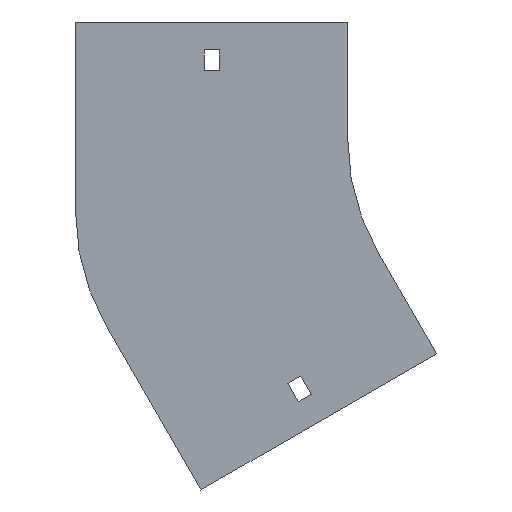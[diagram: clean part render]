
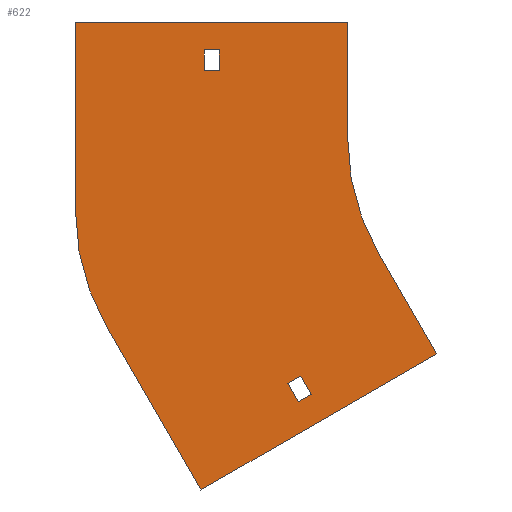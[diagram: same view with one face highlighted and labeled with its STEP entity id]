
A CAD part, front view. The second image highlights one B-rep face of the part: STEP entity #622.
In plain terms, the highlighted planar face has unit normal (0, -1, 0).
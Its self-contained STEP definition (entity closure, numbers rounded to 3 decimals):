
#4 = LINE ( 'NONE', #1665, #673 ) ;
#48 = LINE ( 'NONE', #1111, #1924 ) ;
#92 = EDGE_CURVE ( 'NONE', #1277, #472, #923, .T. ) ;
#137 = VERTEX_POINT ( 'NONE', #1543 ) ;
#138 = DIRECTION ( 'NONE',  ( 0.5, 0., -0.866 ) ) ;
#148 = AXIS2_PLACEMENT_3D ( 'NONE', #501, #1611, #667 ) ;
#152 = DIRECTION ( 'NONE',  ( -0.866, 0., -0.5 ) ) ;
#167 = VECTOR ( 'NONE', #583, 1000. ) ;
#175 = DIRECTION ( 'NONE',  ( 0., 0., -1. ) ) ;
#185 = DIRECTION ( 'NONE',  ( 0., 0., -1. ) ) ;
#216 = VERTEX_POINT ( 'NONE', #966 ) ;
#230 = DIRECTION ( 'NONE',  ( -0.5, 0., 0.866 ) ) ;
#261 = LINE ( 'NONE', #538, #721 ) ;
#273 = EDGE_LOOP ( 'NONE', ( #1896, #766, #865, #1287 ) ) ;
#297 = PLANE ( 'NONE',  #148 ) ;
#305 = DIRECTION ( 'NONE',  ( 0.5, 0., -0.866 ) ) ;
#316 = CARTESIAN_POINT ( 'NONE',  ( -121.296, 0., -113.909 ) ) ;
#321 = VECTOR ( 'NONE', #387, 1000. ) ;
#329 = LINE ( 'NONE', #316, #1769 ) ;
#343 = ORIENTED_EDGE ( 'NONE', *, *, #92, .F. ) ;
#387 = DIRECTION ( 'NONE',  ( 0., 0., 1. ) ) ;
#420 = EDGE_CURVE ( 'NONE', #1357, #1584, #627, .T. ) ;
#452 = EDGE_CURVE ( 'NONE', #705, #578, #4, .T. ) ;
#453 = CARTESIAN_POINT ( 'NONE',  ( -125.796, 0., -106.115 ) ) ;
#467 = VERTEX_POINT ( 'NONE', #642 ) ;
#472 = VERTEX_POINT ( 'NONE', #1893 ) ;
#486 = CARTESIAN_POINT ( 'NONE',  ( -162., 0., 38. ) ) ;
#501 = CARTESIAN_POINT ( 'NONE',  ( 0., 0., 0. ) ) ;
#533 = VECTOR ( 'NONE', #1155, 1000. ) ;
#538 = CARTESIAN_POINT ( 'NONE',  ( -125.796, 0., -106.115 ) ) ;
#542 = EDGE_CURVE ( 'NONE', #216, #1260, #558, .T. ) ;
#547 = ORIENTED_EDGE ( 'NONE', *, *, #828, .F. ) ;
#558 = CIRCLE ( 'NONE', #867, 100. ) ;
#560 = ORIENTED_EDGE ( 'NONE', *, *, #1863, .F. ) ;
#562 = VERTEX_POINT ( 'NONE', #1248 ) ;
#578 = VERTEX_POINT ( 'NONE', #941 ) ;
#583 = DIRECTION ( 'NONE',  ( 1., 0., 0. ) ) ;
#584 = DIRECTION ( 'NONE',  ( 0., 1., 0. ) ) ;
#600 = ORIENTED_EDGE ( 'NONE', *, *, #452, .T. ) ;
#610 = DIRECTION ( 'NONE',  ( 0., -1., 0. ) ) ;
#622 = ADVANCED_FACE ( 'NONE', ( #1401, #648, #1258 ), #297, .T. ) ;
#627 = LINE ( 'NONE', #486, #167 ) ;
#642 = CARTESIAN_POINT ( 'NONE',  ( -217.5, 0., 50. ) ) ;
#648 = FACE_OUTER_BOUND ( 'NONE', #1465, .T. ) ;
#656 = EDGE_CURVE ( 'NONE', #1584, #705, #48, .T. ) ;
#660 = VECTOR ( 'NONE', #138, 1000. ) ;
#667 = DIRECTION ( 'NONE',  ( 0., 0., -1. ) ) ;
#673 = VECTOR ( 'NONE', #1522, 1000. ) ;
#681 = LINE ( 'NONE', #1765, #1078 ) ;
#705 = VERTEX_POINT ( 'NONE', #1571 ) ;
#712 = CARTESIAN_POINT ( 'NONE',  ( -155.5, 0., 38. ) ) ;
#721 = VECTOR ( 'NONE', #1621, 1000. ) ;
#726 = EDGE_CURVE ( 'NONE', #1105, #1277, #1718, .T. ) ;
#745 = CARTESIAN_POINT ( 'NONE',  ( 0., 0., 0. ) ) ;
#766 = ORIENTED_EDGE ( 'NONE', *, *, #901, .F. ) ;
#783 = CARTESIAN_POINT ( 'NONE',  ( -100., 0., 50. ) ) ;
#803 = CARTESIAN_POINT ( 'NONE',  ( -162., 0., 38. ) ) ;
#814 = ORIENTED_EDGE ( 'NONE', *, *, #1942, .F. ) ;
#817 = CARTESIAN_POINT ( 'NONE',  ( -120.167, 0., -102.865 ) ) ;
#819 = CARTESIAN_POINT ( 'NONE',  ( -61.603, 0., -93.301 ) ) ;
#828 = EDGE_CURVE ( 'NONE', #472, #137, #1816, .T. ) ;
#835 = LINE ( 'NONE', #1888, #321 ) ;
#842 = VECTOR ( 'NONE', #305, 1000. ) ;
#844 = VECTOR ( 'NONE', #230, 1000. ) ;
#865 = ORIENTED_EDGE ( 'NONE', *, *, #1099, .F. ) ;
#867 = AXIS2_PLACEMENT_3D ( 'NONE', #1702, #584, #1488 ) ;
#896 = CARTESIAN_POINT ( 'NONE',  ( -86.603, 0., -50. ) ) ;
#901 = EDGE_CURVE ( 'NONE', #1743, #1790, #1486, .T. ) ;
#903 = VECTOR ( 'NONE', #175, 1000. ) ;
#915 = ORIENTED_EDGE ( 'NONE', *, *, #726, .F. ) ;
#922 = EDGE_CURVE ( 'NONE', #1790, #1229, #329, .T. ) ;
#923 = CIRCLE ( 'NONE', #998, 100. ) ;
#927 = DIRECTION ( 'NONE',  ( 0., 0., -1. ) ) ;
#941 = CARTESIAN_POINT ( 'NONE',  ( -162., 0., 29. ) ) ;
#966 = CARTESIAN_POINT ( 'NONE',  ( -204.103, 0., -81.484 ) ) ;
#994 = CARTESIAN_POINT ( 'NONE',  ( -217.5, 0., 50. ) ) ;
#998 = AXIS2_PLACEMENT_3D ( 'NONE', #745, #610, #927 ) ;
#1011 = DIRECTION ( 'NONE',  ( 0., 0., 1. ) ) ;
#1022 = ORIENTED_EDGE ( 'NONE', *, *, #1909, .T. ) ;
#1078 = VECTOR ( 'NONE', #1288, 1000. ) ;
#1099 = EDGE_CURVE ( 'NONE', #562, #1743, #261, .T. ) ;
#1105 = VERTEX_POINT ( 'NONE', #1741 ) ;
#1111 = CARTESIAN_POINT ( 'NONE',  ( -155.5, 0., 29. ) ) ;
#1123 = LINE ( 'NONE', #819, #1424 ) ;
#1128 = LINE ( 'NONE', #994, #533 ) ;
#1155 = DIRECTION ( 'NONE',  ( 1., 0., 0. ) ) ;
#1210 = ORIENTED_EDGE ( 'NONE', *, *, #542, .F. ) ;
#1222 = CARTESIAN_POINT ( 'NONE',  ( -100., 0., 0. ) ) ;
#1229 = VERTEX_POINT ( 'NONE', #1366 ) ;
#1248 = CARTESIAN_POINT ( 'NONE',  ( -120.167, 0., -102.865 ) ) ;
#1258 = FACE_BOUND ( 'NONE', #273, .T. ) ;
#1260 = VERTEX_POINT ( 'NONE', #1782 ) ;
#1271 = CARTESIAN_POINT ( 'NONE',  ( -217.5, 0., -31.484 ) ) ;
#1277 = VERTEX_POINT ( 'NONE', #1222 ) ;
#1287 = ORIENTED_EDGE ( 'NONE', *, *, #1882, .F. ) ;
#1288 = DIRECTION ( 'NONE',  ( -0.5, 0., 0.866 ) ) ;
#1294 = VECTOR ( 'NONE', #1011, 1000. ) ;
#1341 = VERTEX_POINT ( 'NONE', #1378 ) ;
#1357 = VERTEX_POINT ( 'NONE', #803 ) ;
#1358 = DIRECTION ( 'NONE',  ( 0.866, 0., 0.5 ) ) ;
#1366 = CARTESIAN_POINT ( 'NONE',  ( -115.667, 0., -110.659 ) ) ;
#1375 = ORIENTED_EDGE ( 'NONE', *, *, #1499, .F. ) ;
#1378 = CARTESIAN_POINT ( 'NONE',  ( -163.361, 0., -152.051 ) ) ;
#1401 = FACE_BOUND ( 'NONE', #1506, .T. ) ;
#1424 = VECTOR ( 'NONE', #152, 1000. ) ;
#1442 = LINE ( 'NONE', #817, #844 ) ;
#1465 = EDGE_LOOP ( 'NONE', ( #560, #814, #1210, #1375, #1530, #547, #343, #915 ) ) ;
#1486 = LINE ( 'NONE', #453, #660 ) ;
#1488 = DIRECTION ( 'NONE',  ( 0., 0., 1. ) ) ;
#1499 = EDGE_CURVE ( 'NONE', #1341, #216, #681, .T. ) ;
#1506 = EDGE_LOOP ( 'NONE', ( #1022, #1826, #1679, #600 ) ) ;
#1522 = DIRECTION ( 'NONE',  ( -1., 0., 0. ) ) ;
#1530 = ORIENTED_EDGE ( 'NONE', *, *, #1567, .F. ) ;
#1543 = CARTESIAN_POINT ( 'NONE',  ( -61.603, 0., -93.301 ) ) ;
#1567 = EDGE_CURVE ( 'NONE', #137, #1341, #1123, .T. ) ;
#1571 = CARTESIAN_POINT ( 'NONE',  ( -155.5, 0., 29. ) ) ;
#1584 = VERTEX_POINT ( 'NONE', #712 ) ;
#1611 = DIRECTION ( 'NONE',  ( 0., -1., 0. ) ) ;
#1621 = DIRECTION ( 'NONE',  ( -0.866, 0., -0.5 ) ) ;
#1665 = CARTESIAN_POINT ( 'NONE',  ( -162., 0., 29. ) ) ;
#1679 = ORIENTED_EDGE ( 'NONE', *, *, #656, .T. ) ;
#1702 = CARTESIAN_POINT ( 'NONE',  ( -117.5, 0., -31.484 ) ) ;
#1718 = LINE ( 'NONE', #783, #903 ) ;
#1720 = CARTESIAN_POINT ( 'NONE',  ( -125.796, 0., -106.115 ) ) ;
#1741 = CARTESIAN_POINT ( 'NONE',  ( -100., 0., 50. ) ) ;
#1743 = VERTEX_POINT ( 'NONE', #1720 ) ;
#1764 = LINE ( 'NONE', #1271, #1294 ) ;
#1765 = CARTESIAN_POINT ( 'NONE',  ( -163.361, 0., -152.051 ) ) ;
#1769 = VECTOR ( 'NONE', #1358, 1000. ) ;
#1782 = CARTESIAN_POINT ( 'NONE',  ( -217.5, 0., -31.484 ) ) ;
#1790 = VERTEX_POINT ( 'NONE', #1832 ) ;
#1816 = LINE ( 'NONE', #896, #842 ) ;
#1826 = ORIENTED_EDGE ( 'NONE', *, *, #420, .T. ) ;
#1832 = CARTESIAN_POINT ( 'NONE',  ( -121.296, 0., -113.909 ) ) ;
#1863 = EDGE_CURVE ( 'NONE', #467, #1105, #1128, .T. ) ;
#1882 = EDGE_CURVE ( 'NONE', #1229, #562, #1442, .T. ) ;
#1888 = CARTESIAN_POINT ( 'NONE',  ( -162., 0., 29. ) ) ;
#1893 = CARTESIAN_POINT ( 'NONE',  ( -86.603, 0., -50. ) ) ;
#1896 = ORIENTED_EDGE ( 'NONE', *, *, #922, .F. ) ;
#1909 = EDGE_CURVE ( 'NONE', #578, #1357, #835, .T. ) ;
#1924 = VECTOR ( 'NONE', #185, 1000. ) ;
#1942 = EDGE_CURVE ( 'NONE', #1260, #467, #1764, .T. ) ;
